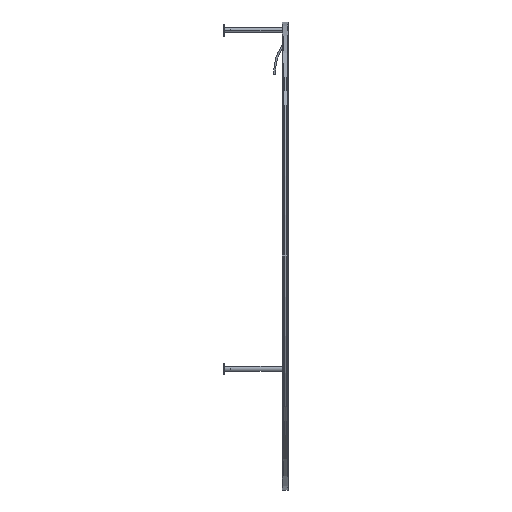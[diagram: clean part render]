
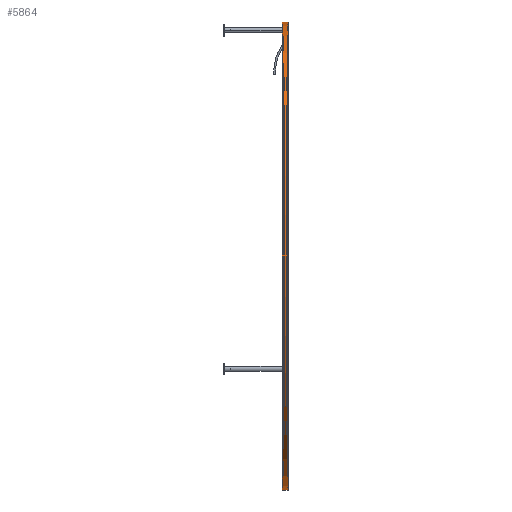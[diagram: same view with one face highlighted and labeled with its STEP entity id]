
A CAD part, left-side view. The second image highlights one B-rep face of the part: STEP entity #5864.
In plain terms, the highlighted cylindrical face has radius 900 mm (diameter 1800 mm), a partial arc.
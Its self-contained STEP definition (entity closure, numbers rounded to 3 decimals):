
#3 = FACE_OUTER_BOUND ( 'NONE', #1722, .T. ) ;
#274 = CARTESIAN_POINT ( 'NONE',  ( 0., 0., 900. ) ) ;
#360 = CYLINDRICAL_SURFACE ( 'NONE', #10934, 900. ) ;
#1722 = EDGE_LOOP ( 'NONE', ( #13411, #4554, #12295, #1902 ) ) ;
#1902 = ORIENTED_EDGE ( 'NONE', *, *, #14788, .F. ) ;
#1944 = CIRCLE ( 'NONE', #11021, 900. ) ;
#3443 = CARTESIAN_POINT ( 'NONE',  ( 0., 12.2, 0. ) ) ;
#3672 = VERTEX_POINT ( 'NONE', #3686 ) ;
#3686 = CARTESIAN_POINT ( 'NONE',  ( 0., 12.2, -900. ) ) ;
#3745 = DIRECTION ( 'NONE',  ( 0., -1., 0. ) ) ;
#4450 = DIRECTION ( 'NONE',  ( 0., -1., 0. ) ) ;
#4554 = ORIENTED_EDGE ( 'NONE', *, *, #15219, .T. ) ;
#5516 = CARTESIAN_POINT ( 'NONE',  ( 0., -10.2, 900. ) ) ;
#5742 = VERTEX_POINT ( 'NONE', #5516 ) ;
#5864 = ADVANCED_FACE ( 'NONE', ( #3 ), #360, .T. ) ;
#6011 = DIRECTION ( 'NONE',  ( 0., -1., 0. ) ) ;
#7218 = VERTEX_POINT ( 'NONE', #16406 ) ;
#10086 = LINE ( 'NONE', #14087, #16438 ) ;
#10934 = AXIS2_PLACEMENT_3D ( 'NONE', #11279, #11192, #14123 ) ;
#11021 = AXIS2_PLACEMENT_3D ( 'NONE', #15897, #3745, #13228 ) ;
#11190 = LINE ( 'NONE', #274, #16154 ) ;
#11192 = DIRECTION ( 'NONE',  ( 0., -1., 0. ) ) ;
#11279 = CARTESIAN_POINT ( 'NONE',  ( 0., 0., 0. ) ) ;
#11400 = CIRCLE ( 'NONE', #16506, 900. ) ;
#12295 = ORIENTED_EDGE ( 'NONE', *, *, #13668, .F. ) ;
#13228 = DIRECTION ( 'NONE',  ( 0., 0., -1. ) ) ;
#13411 = ORIENTED_EDGE ( 'NONE', *, *, #16179, .T. ) ;
#13668 = EDGE_CURVE ( 'NONE', #7218, #5742, #1944, .T. ) ;
#14087 = CARTESIAN_POINT ( 'NONE',  ( 0., 0., -900. ) ) ;
#14123 = DIRECTION ( 'NONE',  ( 0., 0., -1. ) ) ;
#14788 = EDGE_CURVE ( 'NONE', #3672, #7218, #10086, .T. ) ;
#15200 = VERTEX_POINT ( 'NONE', #16610 ) ;
#15219 = EDGE_CURVE ( 'NONE', #15200, #5742, #11190, .T. ) ;
#15421 = DIRECTION ( 'NONE',  ( 0., 0., -1. ) ) ;
#15778 = DIRECTION ( 'NONE',  ( 0., -1., 0. ) ) ;
#15897 = CARTESIAN_POINT ( 'NONE',  ( 0., -10.2, 0. ) ) ;
#16154 = VECTOR ( 'NONE', #4450, 1000. ) ;
#16179 = EDGE_CURVE ( 'NONE', #3672, #15200, #11400, .T. ) ;
#16406 = CARTESIAN_POINT ( 'NONE',  ( 0., -10.2, -900. ) ) ;
#16438 = VECTOR ( 'NONE', #6011, 1000. ) ;
#16506 = AXIS2_PLACEMENT_3D ( 'NONE', #3443, #15778, #15421 ) ;
#16610 = CARTESIAN_POINT ( 'NONE',  ( 0., 12.2, 900. ) ) ;
